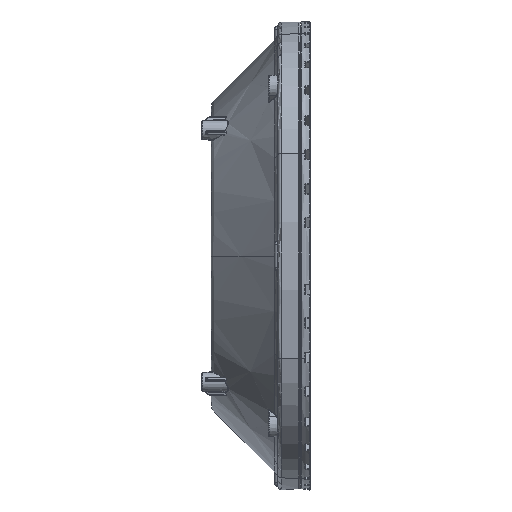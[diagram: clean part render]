
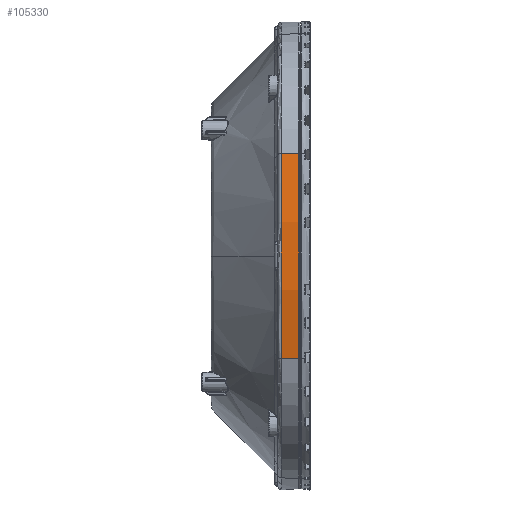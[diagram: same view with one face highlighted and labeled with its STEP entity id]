
A CAD part, left-side view. The second image highlights one B-rep face of the part: STEP entity #105330.
In plain terms, the highlighted conical face has half-angle 1 degrees and reference radius 189.6 mm.
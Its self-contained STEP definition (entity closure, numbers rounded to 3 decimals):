
#6550 = CARTESIAN_POINT ( 'NONE',  ( 62.265, 263.93, 358.779 ) ) ;
#8927 = DIRECTION ( 'NONE',  ( -0.017, -1., -0.004 ) ) ;
#9557 = EDGE_CURVE ( 'NONE', #57842, #103147, #116666, .T. ) ;
#12602 = ORIENTED_EDGE ( 'NONE', *, *, #55082, .F. ) ;
#14019 = AXIS2_PLACEMENT_3D ( 'NONE', #53092, #121850, #62943 ) ;
#30928 = ORIENTED_EDGE ( 'NONE', *, *, #50480, .T. ) ;
#31970 = CARTESIAN_POINT ( 'NONE',  ( 246.751, 263.93, 401.907 ) ) ;
#40368 = DIRECTION ( 'NONE',  ( -0.017, -1., 0.004 ) ) ;
#41789 = DIRECTION ( 'NONE',  ( 0., 0., -1. ) ) ;
#42719 = CARTESIAN_POINT ( 'NONE',  ( 62.142, 256.663, 445.064 ) ) ;
#46391 = CARTESIAN_POINT ( 'NONE',  ( 62.142, 256.663, 358.751 ) ) ;
#49937 = EDGE_CURVE ( 'NONE', #59862, #57842, #96299, .T. ) ;
#50480 = EDGE_CURVE ( 'NONE', #103147, #79617, #88526, .T. ) ;
#51027 = VECTOR ( 'NONE', #40368, 1000. ) ;
#52412 = ORIENTED_EDGE ( 'NONE', *, *, #49937, .T. ) ;
#53092 = CARTESIAN_POINT ( 'NONE',  ( 246.751, 256.663, 401.907 ) ) ;
#54482 = CARTESIAN_POINT ( 'NONE',  ( 246.751, 255.904, 401.907 ) ) ;
#55082 = EDGE_CURVE ( 'NONE', #59862, #79617, #123212, .T. ) ;
#57842 = VERTEX_POINT ( 'NONE', #6550 ) ;
#57954 = EDGE_LOOP ( 'NONE', ( #124433, #30928, #12602, #52412 ) ) ;
#59862 = VERTEX_POINT ( 'NONE', #89536 ) ;
#62943 = DIRECTION ( 'NONE',  ( 0., 0., -1. ) ) ;
#64379 = VECTOR ( 'NONE', #8927, 1000. ) ;
#77242 = CARTESIAN_POINT ( 'NONE',  ( 62.29, 265.404, 358.785 ) ) ;
#79617 = VERTEX_POINT ( 'NONE', #42719 ) ;
#86898 = AXIS2_PLACEMENT_3D ( 'NONE', #31970, #100491, #41789 ) ;
#88526 = CIRCLE ( 'NONE', #14019, 189.587 ) ;
#89536 = CARTESIAN_POINT ( 'NONE',  ( 62.265, 263.93, 445.035 ) ) ;
#89651 = AXIS2_PLACEMENT_3D ( 'NONE', #54482, #93473, #123237 ) ;
#93473 = DIRECTION ( 'NONE',  ( 0., -1., 0. ) ) ;
#96299 = CIRCLE ( 'NONE', #86898, 189.46 ) ;
#99059 = CARTESIAN_POINT ( 'NONE',  ( 62.29, 265.404, 445.03 ) ) ;
#100491 = DIRECTION ( 'NONE',  ( 0., -1., 0. ) ) ;
#103147 = VERTEX_POINT ( 'NONE', #46391 ) ;
#105330 = ADVANCED_FACE ( 'NONE', ( #124259 ), #118050, .T. ) ;
#116666 = LINE ( 'NONE', #77242, #64379 ) ;
#118050 = CONICAL_SURFACE ( 'NONE', #89651, 189.6, 0.017 ) ;
#121850 = DIRECTION ( 'NONE',  ( 0., 1., 0. ) ) ;
#123212 = LINE ( 'NONE', #99059, #51027 ) ;
#123237 = DIRECTION ( 'NONE',  ( 0., 0., 1. ) ) ;
#124259 = FACE_OUTER_BOUND ( 'NONE', #57954, .T. ) ;
#124433 = ORIENTED_EDGE ( 'NONE', *, *, #9557, .T. ) ;
